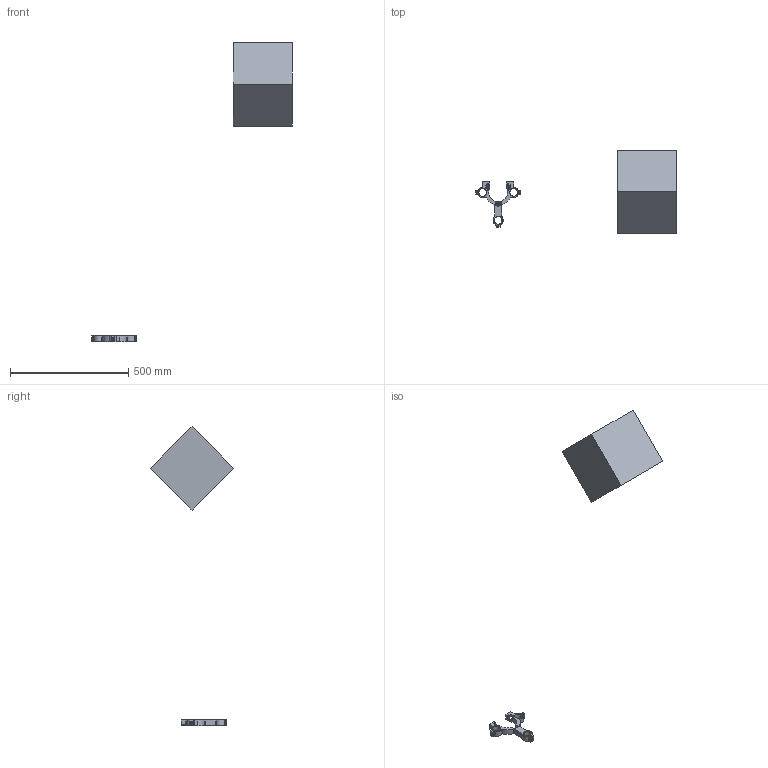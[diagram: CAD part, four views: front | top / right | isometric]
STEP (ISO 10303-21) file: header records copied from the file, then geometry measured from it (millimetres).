
FILE_DESCRIPTION(/* description */ ('(C) Elphel, Inc. 2011. Licensed under CERN OHL v.1.1 or later, see http://ohwr.org/cernohl'),/* implementation_level */ '2;1');
FILE_NAME(/* name */ '0353-22-18',/* time_stamp */ '2011-10-13T17:14:41-06:00',/* author */ (''),/* organization */ ('Elphel, Inc'),/* preprocessor_version */ 'ST-DEVELOPER v12',/* originating_system */ 'VariCAD 2010-3.03; kernel version (20100102)',/* authorisation */ '');
FILE_SCHEMA (('AUTOMOTIVE_DESIGN'));
Length unit declared in the file: millimetre
Products named in the file (1): Part
Bounding box: 848 x 353.55 x 1265.19 mm (x, y, z)
Volume: 15773151.9 mm3; surface area: 423077.8 mm2
Topology: 8 solids, 8 shells, 208 faces, 592 edges, 386 vertices
Faces by surface type: cylinder 119, plane 61, cone 28
Entity records: 9054 total; most frequent: CARTESIAN_POINT 2012, ORIENTED_EDGE 1184, DIRECTION 1168, EDGE_CURVE 592, AXIS2_PLACEMENT_3D 456, VERTEX_POINT 386, LINE 256, VECTOR 256
